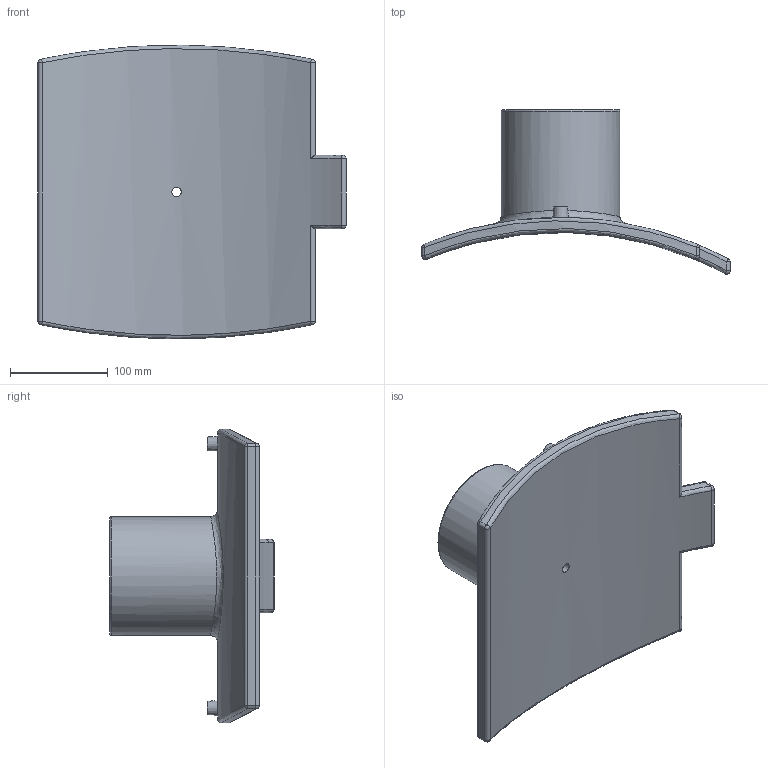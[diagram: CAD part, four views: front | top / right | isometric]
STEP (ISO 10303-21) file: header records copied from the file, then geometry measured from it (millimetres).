
FILE_DESCRIPTION(/* description */ ('PLASSON BRANCH SADDLE 18''''-28''''IPS x 16''''-24''''DIPS'),/* implementation_level */ '2;1');
FILE_NAME(/* name */ 'C:\Dropbox\KIMPROJECTS-Inventor 2019\99-16-3568-Processing Inch\ASTM ElectroFusion 2021\5958B-1\5958BD03280040.ipt.stp',/* time_stamp */ '2021-08-30T09:53:30+03:00',/* author */ ('KIM'),/* organization */ (''),/* preprocessor_version */ 'ST-DEVELOPER v17.2',/* originating_system */ 'Autodesk Inventor 2019',/* authorisation */ '');
FILE_SCHEMA (('AUTOMOTIVE_DESIGN { 1 0 10303 214 3 1 1 }'));
Length unit declared in the file: inch
Products named in the file (1): 5958BD03280040
Bounding box: 314.96 x 167.8 x 299.91 mm (x, y, z)
Volume: 1769376.5 mm3; surface area: 267976.1 mm2
Topology: 1 solids, 1 shells, 66 faces, 136 edges, 81 vertices
Faces by surface type: cylinder 27, plane 14, sphere 12, torus 6, bspline 5, cone 2
Full cylindrical faces by diameter (mm): 4 x2, 9.6 x1, 10 x2, 16 x1, 97.04 x1, 121.3 x1
Entity records: 2427 total; most frequent: CARTESIAN_POINT 993, DIRECTION 304, ORIENTED_EDGE 272, EDGE_CURVE 136, AXIS2_PLACEMENT_3D 132, VERTEX_POINT 81, EDGE_LOOP 77, CIRCLE 70
